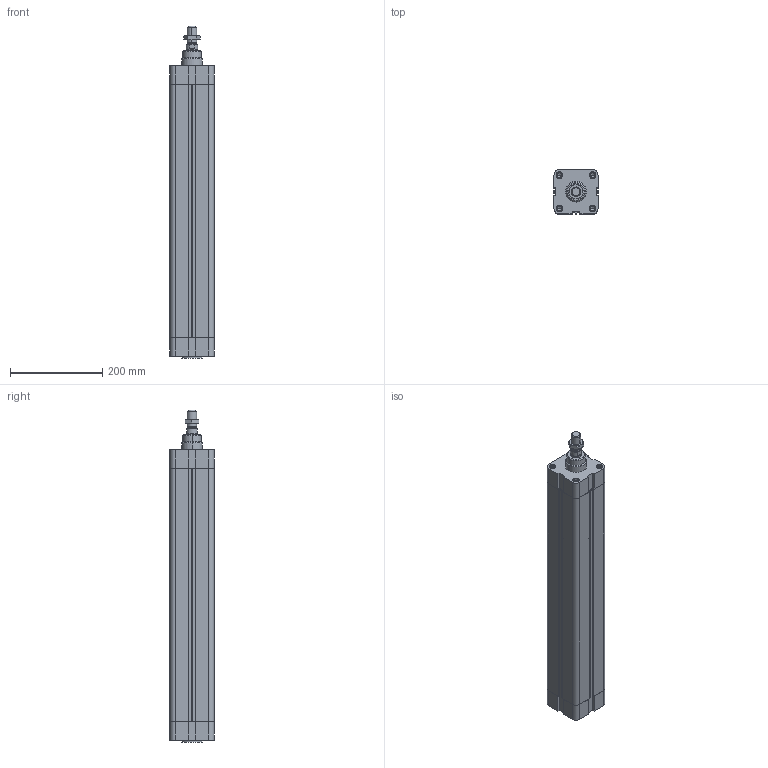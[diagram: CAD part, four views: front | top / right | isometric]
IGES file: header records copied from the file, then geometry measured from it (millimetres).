
Global section: file name: No Iges File Name specified; native system: Autodesk Inventor 2010; preprocessor: AutoDesk Inventor Iges Exporter R2010; author: rivolro1; date: 20090707.103502; units: millimetre
Bounding box: 95.5 x 95.5 x 718 mm (x, y, z)
Volume: 3331107.9 mm3; surface area: 541916.8 mm2
Topology: 5 solids, 5 shells, 290 faces, 694 edges, 440 vertices
Faces by surface type: plane 120, bspline 74, cylinder 40, revolution 34, cone 20, torus 2
